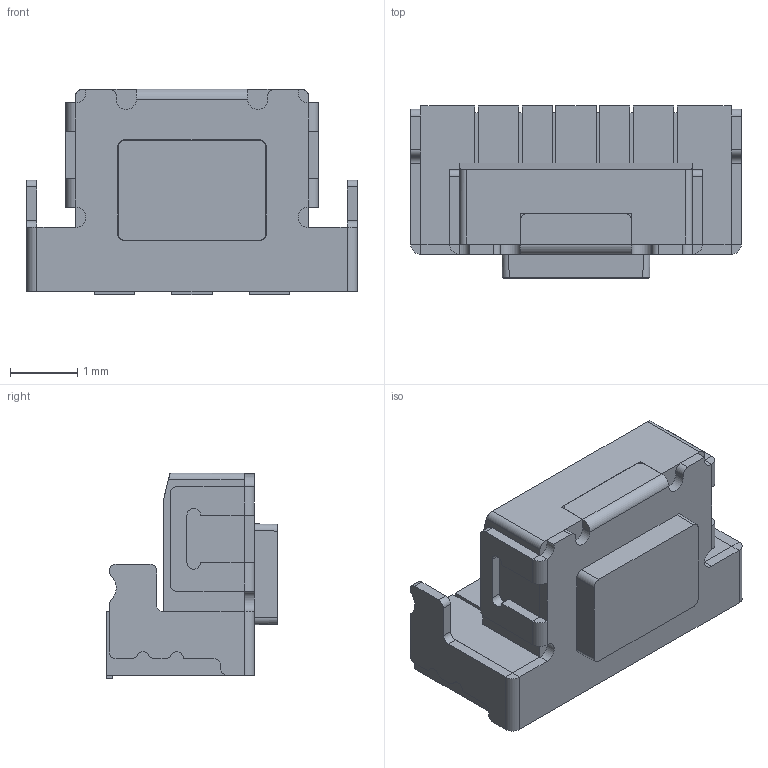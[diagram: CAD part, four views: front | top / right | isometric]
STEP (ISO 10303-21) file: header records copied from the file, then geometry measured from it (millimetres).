
FILE_DESCRIPTION((''),'2;1');
FILE_NAME('JQD3049-C0261-01AEG-1-105_ASM','2026-05-21T17:10:34',('Admin'),(''),'CREO PARAMETRIC BY PTC INC, 2019224','CREO PARAMETRIC BY PTC INC, 2019224','');
FILE_SCHEMA(('AUTOMOTIVE_DESIGN { 1 0 10303 214 1 1 1 1 }'));
Length unit declared in the file: millimetre
Products named in the file (3): JQD3049-C0261-01AEG-1-105_01; JQD3049-C0261-01AEG-1-105_04; JQD3049-C0261-01AEG-1-105_ASM
Assembly tree (2 placements, depth 2):
  JQD3049-C0261-01AEG-1-105_ASM
    JQD3049-C0261-01AEG-1-105_01
    JQD3049-C0261-01AEG-1-105_04
Bounding box: 4.9 x 2.55 x 3.05 mm (x, y, z)
Volume: 21.1 mm3; surface area: 93.3 mm2
Topology: 2 solids, 2 shells, 215 faces, 571 edges, 360 vertices
Faces by surface type: plane 151, cylinder 64
Entity records: 7682 total; most frequent: CARTESIAN_POINT 1209, ORIENTED_EDGE 1142, DIRECTION 1123, EDGE_CURVE 571, VECTOR 443, LINE 443, VERTEX_POINT 360, AXIS2_PLACEMENT_3D 340
